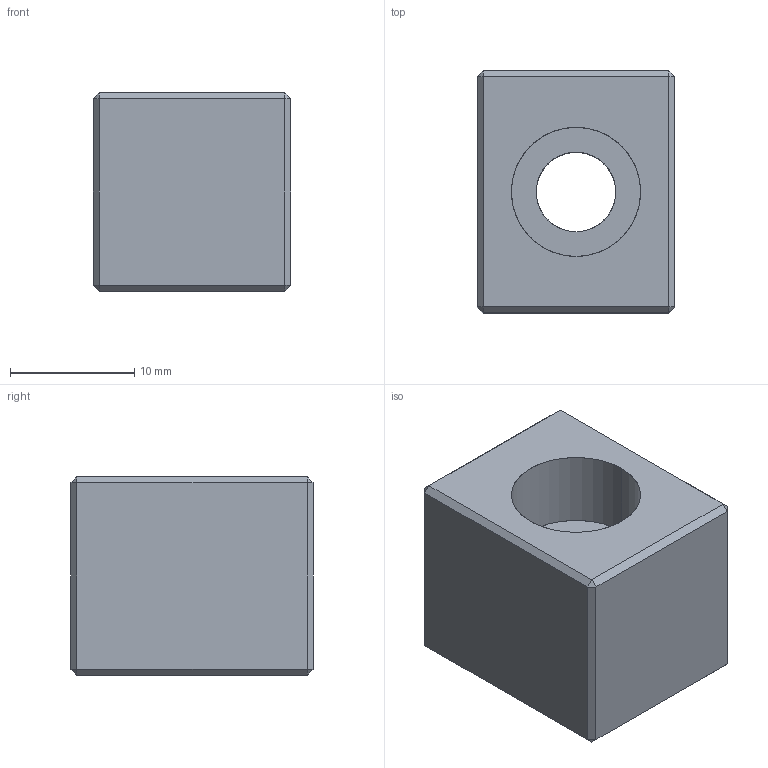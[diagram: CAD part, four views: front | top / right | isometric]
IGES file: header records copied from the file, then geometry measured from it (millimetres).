
Start section: SolidWorks IGES FILE using analytic representation for surfaces
Global section: file name: C:\WIX2\Positioning\3030\3030W040.igs; native system: SolidWorks 2003 by SolidWorks Corporation; preprocessor: Version 5.3; author: Joan; date: 030722.120002; units: millimetre
Bounding box: 15.9 x 19.5 x 16 mm (x, y, z)
Surface area: 2030 mm2 (no closed solid volume)
Topology: 0 solids, 0 shells, 31 faces, 240 edges, 240 vertices
Faces by surface type: bspline 27, revolution 4
